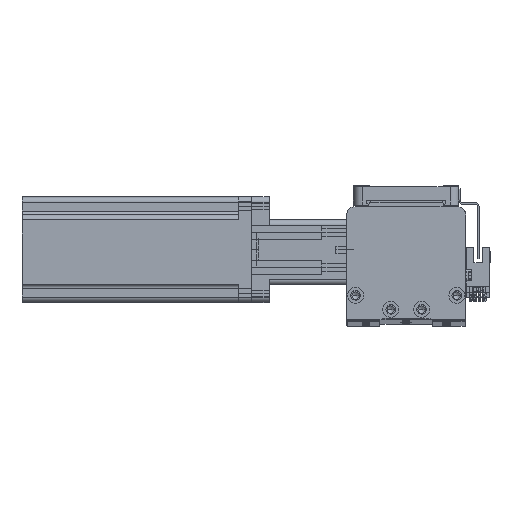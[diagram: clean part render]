
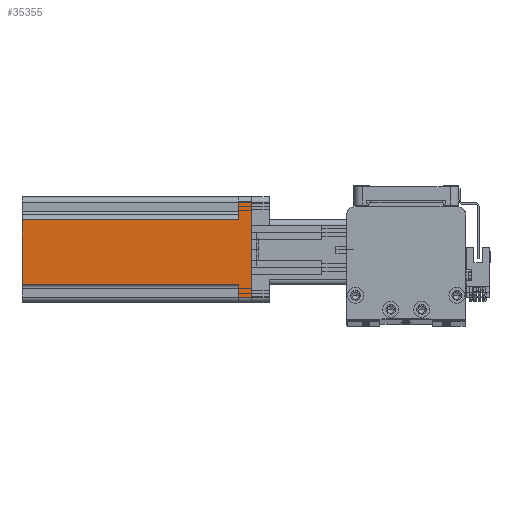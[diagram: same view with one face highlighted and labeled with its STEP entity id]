
A CAD part, top view. The second image highlights one B-rep face of the part: STEP entity #35355.
In plain terms, the highlighted planar face has unit normal (0, 0, 1) as drawn and (-1, 0, 0) by its records, which use the part's own axes.
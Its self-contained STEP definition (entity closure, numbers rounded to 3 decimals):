
#2927 = VERTEX_POINT ( 'NONE', #26204 ) ;
#3061 = EDGE_LOOP ( 'NONE', ( #15956, #9325, #12482, #6517, #13910, #12204, #35288, #41501 ) ) ;
#3148 = DIRECTION ( 'NONE',  ( 0., 1., 0. ) ) ;
#4141 = VERTEX_POINT ( 'NONE', #4741 ) ;
#4741 = CARTESIAN_POINT ( 'NONE',  ( -30., -17., 7.5 ) ) ;
#6180 = EDGE_CURVE ( 'NONE', #4141, #21333, #9396, .T. ) ;
#6517 = ORIENTED_EDGE ( 'NONE', *, *, #6735, .F. ) ;
#6735 = EDGE_CURVE ( 'NONE', #2927, #43118, #26470, .T. ) ;
#6939 = LINE ( 'NONE', #31556, #18969 ) ;
#7287 = CARTESIAN_POINT ( 'NONE',  ( -30., -30., 130.7 ) ) ;
#8037 = CARTESIAN_POINT ( 'NONE',  ( -30., 20., 130.7 ) ) ;
#9325 = ORIENTED_EDGE ( 'NONE', *, *, #6180, .T. ) ;
#9396 = LINE ( 'NONE', #40911, #44430 ) ;
#9996 = EDGE_CURVE ( 'NONE', #34101, #27205, #47061, .T. ) ;
#12204 = ORIENTED_EDGE ( 'NONE', *, *, #9996, .T. ) ;
#12394 = CARTESIAN_POINT ( 'NONE',  ( -30., -27., 0. ) ) ;
#12427 = DIRECTION ( 'NONE',  ( 0., 0., 1. ) ) ;
#12482 = ORIENTED_EDGE ( 'NONE', *, *, #19720, .F. ) ;
#13003 = LINE ( 'NONE', #7287, #23788 ) ;
#13910 = ORIENTED_EDGE ( 'NONE', *, *, #39203, .T. ) ;
#15956 = ORIENTED_EDGE ( 'NONE', *, *, #34610, .F. ) ;
#17295 = DIRECTION ( 'NONE',  ( 1., 0., 0. ) ) ;
#18635 = DIRECTION ( 'NONE',  ( 0., 0., 1. ) ) ;
#18680 = FACE_OUTER_BOUND ( 'NONE', #3061, .T. ) ;
#18969 = VECTOR ( 'NONE', #3148, 1000. ) ;
#19319 = CARTESIAN_POINT ( 'NONE',  ( -30., -17., 130.7 ) ) ;
#19720 = EDGE_CURVE ( 'NONE', #43118, #21333, #13003, .T. ) ;
#20696 = CARTESIAN_POINT ( 'NONE',  ( -30., 27., 130.7 ) ) ;
#20961 = CARTESIAN_POINT ( 'NONE',  ( -30., 27., 0. ) ) ;
#21083 = VERTEX_POINT ( 'NONE', #45384 ) ;
#21333 = VERTEX_POINT ( 'NONE', #19319 ) ;
#23130 = LINE ( 'NONE', #47181, #32706 ) ;
#23186 = CARTESIAN_POINT ( 'NONE',  ( -30., -30., 7.5 ) ) ;
#23684 = CARTESIAN_POINT ( 'NONE',  ( -30., -30., 0. ) ) ;
#23788 = VECTOR ( 'NONE', #35475, 1000. ) ;
#24911 = PLANE ( 'NONE',  #47266 ) ;
#26204 = CARTESIAN_POINT ( 'NONE',  ( -30., 20., 7.5 ) ) ;
#26470 = LINE ( 'NONE', #44437, #36060 ) ;
#26649 = LINE ( 'NONE', #23684, #30478 ) ;
#27205 = VERTEX_POINT ( 'NONE', #20961 ) ;
#30478 = VECTOR ( 'NONE', #52344, 1000. ) ;
#31556 = CARTESIAN_POINT ( 'NONE',  ( -30., 30., 7.5 ) ) ;
#32161 = EDGE_CURVE ( 'NONE', #37185, #21083, #23130, .T. ) ;
#32706 = VECTOR ( 'NONE', #18635, 1000. ) ;
#34101 = VERTEX_POINT ( 'NONE', #36776 ) ;
#34610 = EDGE_CURVE ( 'NONE', #4141, #21083, #44962, .T. ) ;
#35288 = ORIENTED_EDGE ( 'NONE', *, *, #41776, .T. ) ;
#35355 = ADVANCED_FACE ( 'NONE', ( #18680 ), #24911, .F. ) ;
#35475 = DIRECTION ( 'NONE',  ( 0., -1., 0. ) ) ;
#36060 = VECTOR ( 'NONE', #48579, 1000. ) ;
#36179 = VECTOR ( 'NONE', #36912, 1000. ) ;
#36776 = CARTESIAN_POINT ( 'NONE',  ( -30., 27., 7.5 ) ) ;
#36912 = DIRECTION ( 'NONE',  ( 0., 0., -1. ) ) ;
#37185 = VERTEX_POINT ( 'NONE', #12394 ) ;
#39203 = EDGE_CURVE ( 'NONE', #2927, #34101, #6939, .T. ) ;
#40911 = CARTESIAN_POINT ( 'NONE',  ( -30., -17., 130.7 ) ) ;
#41501 = ORIENTED_EDGE ( 'NONE', *, *, #32161, .T. ) ;
#41710 = CARTESIAN_POINT ( 'NONE',  ( -30., -30., 130.7 ) ) ;
#41776 = EDGE_CURVE ( 'NONE', #27205, #37185, #26649, .T. ) ;
#43118 = VERTEX_POINT ( 'NONE', #8037 ) ;
#43696 = VECTOR ( 'NONE', #51840, 1000. ) ;
#44430 = VECTOR ( 'NONE', #12427, 1000. ) ;
#44437 = CARTESIAN_POINT ( 'NONE',  ( -30., 20., 7.5 ) ) ;
#44962 = LINE ( 'NONE', #23186, #43696 ) ;
#45384 = CARTESIAN_POINT ( 'NONE',  ( -30., -27., 7.5 ) ) ;
#45805 = DIRECTION ( 'NONE',  ( 0., 0., -1. ) ) ;
#47061 = LINE ( 'NONE', #20696, #36179 ) ;
#47181 = CARTESIAN_POINT ( 'NONE',  ( -30., -27., 130.7 ) ) ;
#47266 = AXIS2_PLACEMENT_3D ( 'NONE', #41710, #17295, #45805 ) ;
#48579 = DIRECTION ( 'NONE',  ( 0., 0., 1. ) ) ;
#51840 = DIRECTION ( 'NONE',  ( 0., -1., 0. ) ) ;
#52344 = DIRECTION ( 'NONE',  ( 0., -1., 0. ) ) ;
